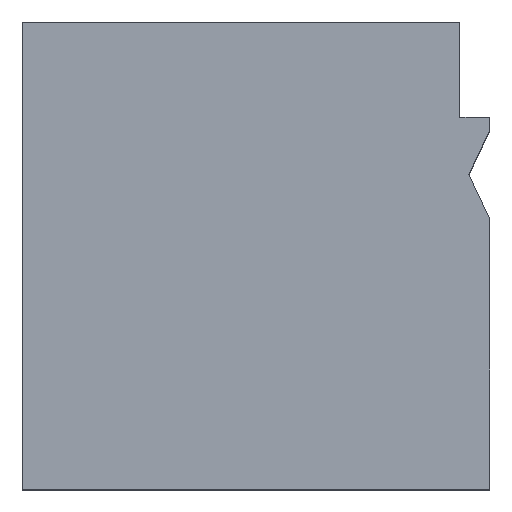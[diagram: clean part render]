
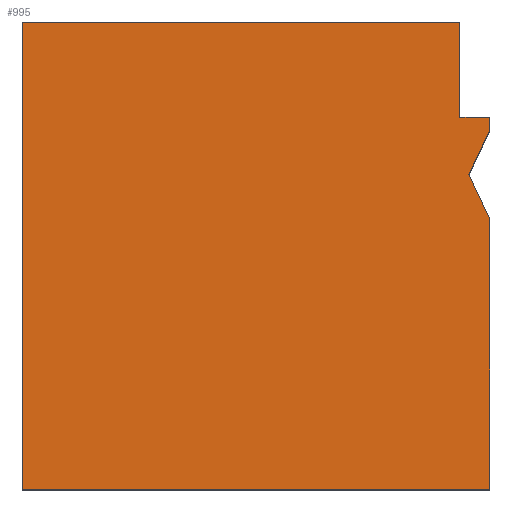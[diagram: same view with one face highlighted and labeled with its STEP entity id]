
A CAD part, top view. The second image highlights one B-rep face of the part: STEP entity #995.
In plain terms, the highlighted planar face has unit normal (0, 0, 1).
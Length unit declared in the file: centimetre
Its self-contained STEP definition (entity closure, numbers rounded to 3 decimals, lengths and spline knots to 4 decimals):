
#15 = CARTESIAN_POINT ( 'NONE',  ( 1000., 0., 1000. ) ) ;
#16 = EDGE_CURVE ( 'NONE', #716, #96, #1082, .T. ) ;
#20 = DIRECTION ( 'NONE',  ( 0., 0., 1. ) ) ;
#32 = CARTESIAN_POINT ( 'NONE',  ( 0., 0., 1000. ) ) ;
#38 = ORIENTED_EDGE ( 'NONE', *, *, #282, .T. ) ;
#59 = CARTESIAN_POINT ( 'NONE',  ( 1000., 1000., 1000. ) ) ;
#65 = LINE ( 'NONE', #782, #968 ) ;
#96 = VERTEX_POINT ( 'NONE', #514 ) ;
#116 = LINE ( 'NONE', #392, #529 ) ;
#121 = DIRECTION ( 'NONE',  ( -0.428, -0.904, 0. ) ) ;
#137 = EDGE_LOOP ( 'NONE', ( #802, #186, #984, #38, #975, #778, #983, #923, #350 ) ) ;
#143 = DIRECTION ( 'NONE',  ( 0., 1., 0. ) ) ;
#157 = AXIS2_PLACEMENT_3D ( 'NONE', #485, #20, #1128 ) ;
#165 = VERTEX_POINT ( 'NONE', #607 ) ;
#181 = CARTESIAN_POINT ( 'NONE',  ( 0., 1000., 1000. ) ) ;
#186 = ORIENTED_EDGE ( 'NONE', *, *, #1026, .T. ) ;
#231 = VECTOR ( 'NONE', #121, 100. ) ;
#282 = EDGE_CURVE ( 'NONE', #445, #592, #847, .T. ) ;
#343 = DIRECTION ( 'NONE',  ( 0., 1., 0. ) ) ;
#350 = ORIENTED_EDGE ( 'NONE', *, *, #16, .F. ) ;
#352 = VERTEX_POINT ( 'NONE', #672 ) ;
#392 = CARTESIAN_POINT ( 'NONE',  ( 0., 1000., 1000. ) ) ;
#399 = VECTOR ( 'NONE', #764, 100. ) ;
#404 = DIRECTION ( 'NONE',  ( 1., 0., 0. ) ) ;
#427 = VECTOR ( 'NONE', #542, 100. ) ;
#445 = VERTEX_POINT ( 'NONE', #539 ) ;
#447 = DIRECTION ( 'NONE',  ( 0.428, -0.904, 0. ) ) ;
#457 = LINE ( 'NONE', #563, #231 ) ;
#467 = DIRECTION ( 'NONE',  ( 0., -1., 0. ) ) ;
#475 = FACE_OUTER_BOUND ( 'NONE', #137, .T. ) ;
#485 = CARTESIAN_POINT ( 'NONE',  ( 0., 0., 1000. ) ) ;
#506 = LINE ( 'NONE', #59, #1119 ) ;
#514 = CARTESIAN_POINT ( 'NONE',  ( 1000., 795.7635, 1000. ) ) ;
#529 = VECTOR ( 'NONE', #467, 100. ) ;
#533 = DIRECTION ( 'NONE',  ( 0., -1., 0. ) ) ;
#539 = CARTESIAN_POINT ( 'NONE',  ( 0., 0., 1000. ) ) ;
#542 = DIRECTION ( 'NONE',  ( 1., 0., 0. ) ) ;
#563 = CARTESIAN_POINT ( 'NONE',  ( 955.3916, 673.0644, 1000. ) ) ;
#572 = PLANE ( 'NONE',  #157 ) ;
#592 = VERTEX_POINT ( 'NONE', #15 ) ;
#607 = CARTESIAN_POINT ( 'NONE',  ( 955.3916, 673.0644, 1000. ) ) ;
#639 = CARTESIAN_POINT ( 'NONE',  ( 936.3694, 795.7635, 1000. ) ) ;
#672 = CARTESIAN_POINT ( 'NONE',  ( 1000., 767.3075, 1000. ) ) ;
#682 = EDGE_CURVE ( 'NONE', #352, #165, #457, .T. ) ;
#716 = VERTEX_POINT ( 'NONE', #927 ) ;
#764 = DIRECTION ( 'NONE',  ( -1., 0., 0. ) ) ;
#778 = ORIENTED_EDGE ( 'NONE', *, *, #888, .F. ) ;
#782 = CARTESIAN_POINT ( 'NONE',  ( 1000., 1000., 1000. ) ) ;
#800 = VERTEX_POINT ( 'NONE', #181 ) ;
#802 = ORIENTED_EDGE ( 'NONE', *, *, #838, .F. ) ;
#838 = EDGE_CURVE ( 'NONE', #1150, #716, #1076, .T. ) ;
#847 = LINE ( 'NONE', #32, #953 ) ;
#849 = CARTESIAN_POINT ( 'NONE',  ( 0., 1000., 1000. ) ) ;
#852 = VECTOR ( 'NONE', #447, 100. ) ;
#888 = EDGE_CURVE ( 'NONE', #165, #1161, #993, .T. ) ;
#901 = CARTESIAN_POINT ( 'NONE',  ( 1000., 578.8213, 1000. ) ) ;
#923 = ORIENTED_EDGE ( 'NONE', *, *, #1169, .T. ) ;
#926 = EDGE_CURVE ( 'NONE', #800, #445, #116, .T. ) ;
#927 = CARTESIAN_POINT ( 'NONE',  ( 936.3694, 795.7635, 1000. ) ) ;
#938 = LINE ( 'NONE', #849, #399 ) ;
#953 = VECTOR ( 'NONE', #404, 100. ) ;
#968 = VECTOR ( 'NONE', #143, 100. ) ;
#975 = ORIENTED_EDGE ( 'NONE', *, *, #1069, .T. ) ;
#983 = ORIENTED_EDGE ( 'NONE', *, *, #682, .F. ) ;
#984 = ORIENTED_EDGE ( 'NONE', *, *, #926, .T. ) ;
#993 = LINE ( 'NONE', #901, #852 ) ;
#995 = ADVANCED_FACE ( 'NONE', ( #475 ), #572, .T. ) ;
#1026 = EDGE_CURVE ( 'NONE', #1150, #800, #938, .T. ) ;
#1042 = VECTOR ( 'NONE', #533, 100. ) ;
#1059 = CARTESIAN_POINT ( 'NONE',  ( 1000., 578.8213, 1000. ) ) ;
#1069 = EDGE_CURVE ( 'NONE', #592, #1161, #65, .T. ) ;
#1076 = LINE ( 'NONE', #639, #1042 ) ;
#1082 = LINE ( 'NONE', #1105, #427 ) ;
#1105 = CARTESIAN_POINT ( 'NONE',  ( 936.3694, 795.7635, 1000. ) ) ;
#1119 = VECTOR ( 'NONE', #343, 100. ) ;
#1128 = DIRECTION ( 'NONE',  ( 1., 0., 0. ) ) ;
#1134 = CARTESIAN_POINT ( 'NONE',  ( 936.3694, 1000., 1000. ) ) ;
#1150 = VERTEX_POINT ( 'NONE', #1134 ) ;
#1161 = VERTEX_POINT ( 'NONE', #1059 ) ;
#1169 = EDGE_CURVE ( 'NONE', #352, #96, #506, .T. ) ;
